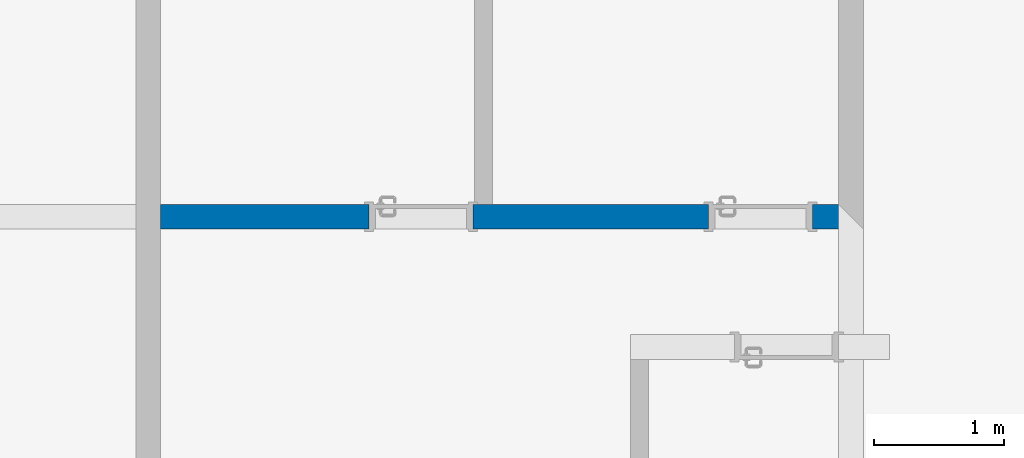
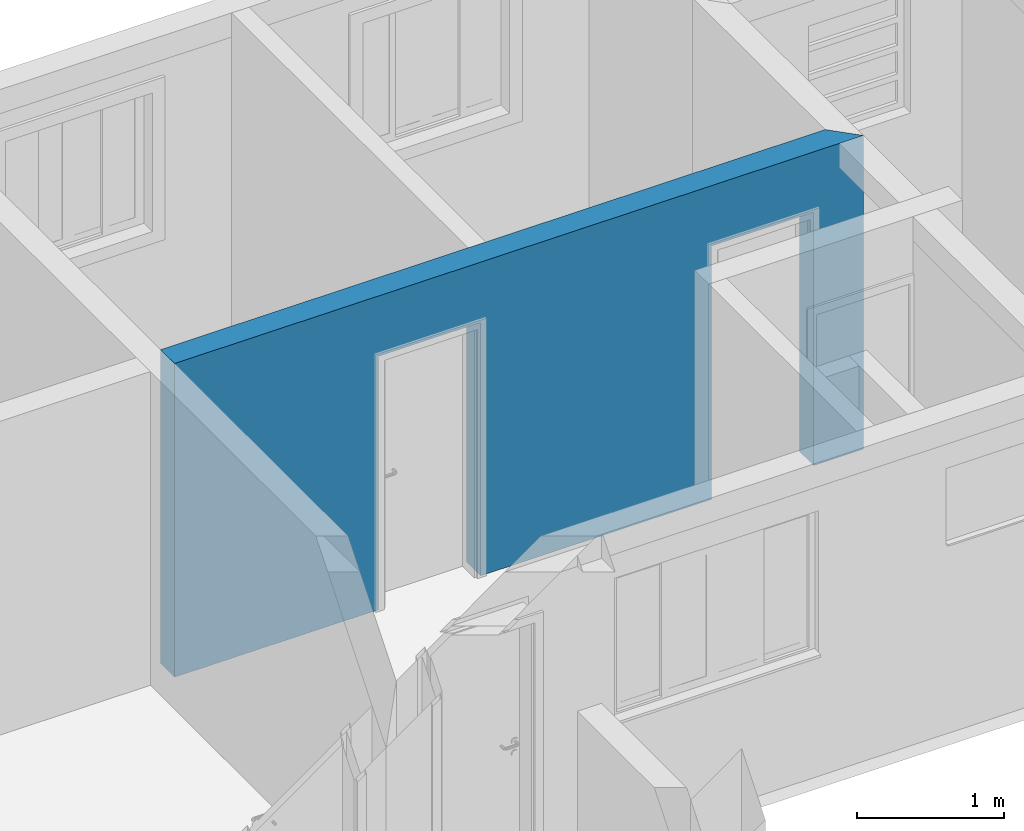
# One storey, part 39 of 47: 1 wall, 2 openings.
"""IFC2X3 building model written with IfcOpenShell, lengths in millimetres."""

from ifc_helpers import new_model, entity, si_unit, converted_unit, derived_unit, money_unit, direction, frame, origin_with_axes, origin_2d_with_axis, place, context, subcontext, project, spatial, polyline, rectangle, outline, extrude, material, layer, layer_set, layer_usage, type_object, element, save


model = new_model("IFC2X3")

# Units and contexts
model_context = context("Model", 3, precision=0.01, world=origin_with_axes(), true_north=direction((0.0, 1.0)))
body_context = subcontext(model_context, "Body", "Model", "MODEL_VIEW")
ifc_project = project(units=[si_unit("LENGTHUNIT", "METRE", prefix="MILLI"), si_unit("AREAUNIT", "SQUARE_METRE"), si_unit("VOLUMEUNIT", "CUBIC_METRE"), converted_unit("PLANEANGLEUNIT", "DEGREE", entity("IfcPlaneAngleMeasure", 0.0174532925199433), si_unit("PLANEANGLEUNIT", "RADIAN"), dimensions=[0, 0, 0, 0, 0, 0, 0]), money_unit("USD"), converted_unit("TIMEUNIT", "Year", entity("IfcTimeMeasure", 31557600.0), si_unit("TIMEUNIT", "SECOND"), dimensions=[0, 0, 1, 0, 0, 0, 0]), si_unit("MASSUNIT", "GRAM", prefix="KILO"), si_unit("THERMODYNAMICTEMPERATUREUNIT", "DEGREE_CELSIUS"), si_unit("LUMINOUSINTENSITYUNIT", "LUMEN"), si_unit("ENERGYUNIT", "JOULE", prefix="MEGA"), derived_unit("THERMALCONDUCTANCEUNIT", [(si_unit("POWERUNIT", "WATT"), 1), (si_unit("LENGTHUNIT", "METRE"), -1), (si_unit("THERMODYNAMICTEMPERATUREUNIT", "KELVIN"), -1)]), derived_unit("SPECIFICHEATCAPACITYUNIT", [(si_unit("ENERGYUNIT", "JOULE"), 1), (si_unit("MASSUNIT", "GRAM", prefix="KILO"), -1), (si_unit("THERMODYNAMICTEMPERATUREUNIT", "KELVIN"), -1)]), derived_unit("MASSDENSITYUNIT", [(si_unit("MASSUNIT", "GRAM", prefix="KILO"), 1), (si_unit("VOLUMEUNIT", "CUBIC_METRE"), -1)])], contexts=[model_context])

# Site, building, storey
site_placement = place(None, origin_with_axes())
site = spatial("IfcSite", under=ifc_project, at=site_placement, Name="Local", CompositionType="ELEMENT")
building_placement = place(site_placement, origin_with_axes())
building = spatial("IfcBuilding", under=site, at=building_placement, Name="Construção", CompositionType="ELEMENT")
storey_placement = place(building_placement, origin_with_axes())
storey = spatial("IfcBuildingStorey", under=building, at=storey_placement, Name="Pavimento Tipo", CompositionType="ELEMENT", Elevation=0.0)

# Wall, openings
ifc_material = material(Name="Concreto - Estrutural")
ifc_layer = layer(ifc_material, 190.0, ventilated="UNKNOWN")
ifc_layer_set = layer_set([ifc_layer], Name="Concreto - Estrutural 190")
ifc_layer_usage = layer_usage(ifc_layer_set, "AXIS2", "NEGATIVE", 0.0)
wall_type = type_object("IfcWallType", Name="Concreto - Estrutural 190", PredefinedType="NOTDEFINED")
wall_placement = place(storey_placement, frame((6442.566997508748, 15596.98141771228, 0.0), z_axis=(0.0, 0.0, 1.0), x_axis=(-1.0, 0.0, 0.0)))
wall = element("IfcWallStandardCase", 1, at=wall_placement, inside=storey, type_object=wall_type, material=ifc_layer_usage, Name="Apartamento 1 - Parede-084", context=body_context, shape_type="SweptSolid", body=[
    extrude(outline(polyline([(190.0000000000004, -189.9999999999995), (5399.999999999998, -189.9999999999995), (5399.999999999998, 0.0), (0.0, 0.0), (190.0000000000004, -189.9999999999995)])), origin_with_axes(), (0.0, 0.0, 1.0), 2600.0),
])
opening_1_placement = place(wall_placement, frame((790.0000000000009, 0.0, 0.0), z_axis=(0.0, 0.0, 1.0), x_axis=(1.0, 0.0, 0.0)))
element("IfcOpeningElement", 2, at=opening_1_placement, cuts=wall, Name="Apartamento 1 - P03", context=body_context, shape_type="SweptSolid", body=[
    extrude(rectangle(XDim=800.0000000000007, YDim=2100.0, at=origin_2d_with_axis()), frame((0.0, -189.9999999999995, 1050.0), z_axis=(0.0, 1.0, 0.0), x_axis=(-1.0, 0.0, 0.0)), (0.0, 0.0, 1.0), 570.0000000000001),
    extrude(rectangle(XDim=870.000000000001, YDim=2135.0, at=origin_2d_with_axis()), frame((0.0, -189.9999999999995, 1067.5), z_axis=(0.0, 1.0, 0.0), x_axis=(-1.0, 0.0, 0.0)), (0.0, 0.0, -1.0), 190.0),
    extrude(rectangle(XDim=870.0000000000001, YDim=2135.0, at=origin_2d_with_axis()), frame((0.0, 0.0, 1067.5), z_axis=(0.0, -1.0, 0.0), x_axis=(-1.0, 0.0, 0.0)), (0.0, 0.0, -1.0), 190.0),
])
opening_2_placement = place(wall_placement, frame((3400.0, 0.0, 0.0), z_axis=(0.0, 0.0, 1.0), x_axis=(1.0, 0.0, 0.0)))
element("IfcOpeningElement", 3, at=opening_2_placement, cuts=wall, Name="Apartamento 1 - P04", context=body_context, shape_type="SweptSolid", body=[
    extrude(rectangle(XDim=799.9999999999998, YDim=2100.0, at=origin_2d_with_axis()), frame((0.0, -189.9999999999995, 1050.0), z_axis=(0.0, 1.0, 0.0), x_axis=(-1.0, 0.0, 0.0)), (0.0, 0.0, 1.0), 570.0000000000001),
    extrude(rectangle(XDim=870.0000000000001, YDim=2135.0, at=origin_2d_with_axis()), frame((0.0, -189.9999999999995, 1067.5), z_axis=(0.0, 1.0, 0.0), x_axis=(-1.0, 0.0, 0.0)), (0.0, 0.0, -1.0), 190.0),
    extrude(rectangle(XDim=870.0000000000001, YDim=2135.0, at=origin_2d_with_axis()), frame((0.0, 0.0, 1067.5), z_axis=(0.0, -1.0, 0.0), x_axis=(-1.0, 0.0, 0.0)), (0.0, 0.0, -1.0), 190.0),
])

save(model, "model.ifc")
